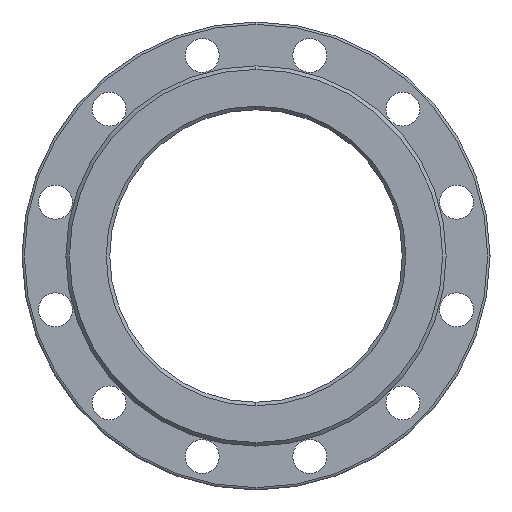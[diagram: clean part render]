
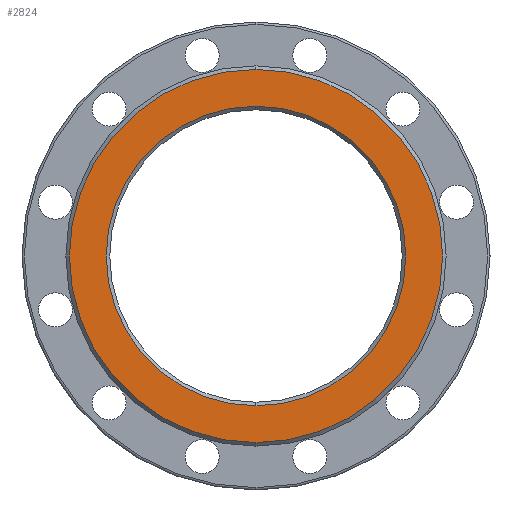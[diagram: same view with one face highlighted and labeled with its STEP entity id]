
A CAD part, left-side view. The second image highlights one B-rep face of the part: STEP entity #2824.
In plain terms, the highlighted planar face has unit normal (-1, 0, 0).
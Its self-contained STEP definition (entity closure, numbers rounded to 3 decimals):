
#182 = VERTEX_POINT ( 'NONE', #2620 ) ;
#265 = VERTEX_POINT ( 'NONE', #2761 ) ;
#306 = DIRECTION ( 'NONE',  ( -1., 0., 0. ) ) ;
#469 = AXIS2_PLACEMENT_3D ( 'NONE', #2822, #4704, #1318 ) ;
#474 = CIRCLE ( 'NONE', #1657, 128. ) ;
#545 = EDGE_LOOP ( 'NONE', ( #3015, #2541 ) ) ;
#718 = VERTEX_POINT ( 'NONE', #3527 ) ;
#888 = ORIENTED_EDGE ( 'NONE', *, *, #1400, .T. ) ;
#1318 = DIRECTION ( 'NONE',  ( 0., 0., -1. ) ) ;
#1400 = EDGE_CURVE ( 'Defeatured_0_3+Defeatured_0_24+Defeatured_0_24+Defeatured_0_24', #265, #718, #2126, .T. ) ;
#1406 = CARTESIAN_POINT ( 'NONE',  ( -350., 0., 0. ) ) ;
#1450 = DIRECTION ( 'NONE',  ( -1., 0., 0. ) ) ;
#1469 = DIRECTION ( 'NONE',  ( 0., 0., -1. ) ) ;
#1657 = AXIS2_PLACEMENT_3D ( 'NONE', #3524, #1686, #3169 ) ;
#1686 = DIRECTION ( 'NONE',  ( 1., 0., 0. ) ) ;
#2126 = CIRCLE ( 'NONE', #469, 128. ) ;
#2278 = CARTESIAN_POINT ( 'NONE',  ( -350., 0., 0. ) ) ;
#2489 = EDGE_CURVE ( 'Defeatured_0_3+Defeatured_0_24+Defeatured_0_24+Defeatured_0_24', #718, #265, #474, .T. ) ;
#2494 = VERTEX_POINT ( 'NONE', #3968 ) ;
#2541 = ORIENTED_EDGE ( 'NONE', *, *, #4516, .T. ) ;
#2611 = DIRECTION ( 'NONE',  ( 0., 0., 1. ) ) ;
#2620 = CARTESIAN_POINT ( 'NONE',  ( -350., 0., -159.5 ) ) ;
#2736 = DIRECTION ( 'NONE',  ( 1., 0., 0. ) ) ;
#2761 = CARTESIAN_POINT ( 'NONE',  ( -350., 0., -128. ) ) ;
#2791 = EDGE_LOOP ( 'NONE', ( #2890, #888 ) ) ;
#2800 = AXIS2_PLACEMENT_3D ( 'NONE', #2278, #306, #4137 ) ;
#2822 = CARTESIAN_POINT ( 'NONE',  ( -350., 0., 0. ) ) ;
#2824 = ADVANCED_FACE ( 'Defeatured_0_3', ( #3112, #4491 ), #3349, .F. ) ;
#2890 = ORIENTED_EDGE ( 'NONE', *, *, #2489, .T. ) ;
#3015 = ORIENTED_EDGE ( 'NONE', *, *, #3458, .T. ) ;
#3112 = FACE_BOUND ( 'NONE', #2791, .T. ) ;
#3169 = DIRECTION ( 'NONE',  ( 0., 0., -1. ) ) ;
#3349 = PLANE ( 'NONE',  #4584 ) ;
#3430 = CIRCLE ( 'NONE', #4455, 159.5 ) ;
#3458 = EDGE_CURVE ( 'Defeatured_0_3+Defeatured_0_4+Defeatured_0_4+Defeatured_0_4', #182, #2494, #3430, .T. ) ;
#3524 = CARTESIAN_POINT ( 'NONE',  ( -350., 0., 0. ) ) ;
#3527 = CARTESIAN_POINT ( 'NONE',  ( -350., 0., 128. ) ) ;
#3968 = CARTESIAN_POINT ( 'NONE',  ( -350., 0., 159.5 ) ) ;
#4137 = DIRECTION ( 'NONE',  ( 0., 0., 1. ) ) ;
#4455 = AXIS2_PLACEMENT_3D ( 'NONE', #1406, #1450, #2611 ) ;
#4491 = FACE_OUTER_BOUND ( 'NONE', #545, .T. ) ;
#4516 = EDGE_CURVE ( 'Defeatured_0_3+Defeatured_0_4+Defeatured_0_4+Defeatured_0_4', #2494, #182, #4697, .T. ) ;
#4584 = AXIS2_PLACEMENT_3D ( 'NONE', #4851, #2736, #1469 ) ;
#4697 = CIRCLE ( 'NONE', #2800, 159.5 ) ;
#4704 = DIRECTION ( 'NONE',  ( 1., 0., 0. ) ) ;
#4851 = CARTESIAN_POINT ( 'NONE',  ( -350., 125., 0. ) ) ;
